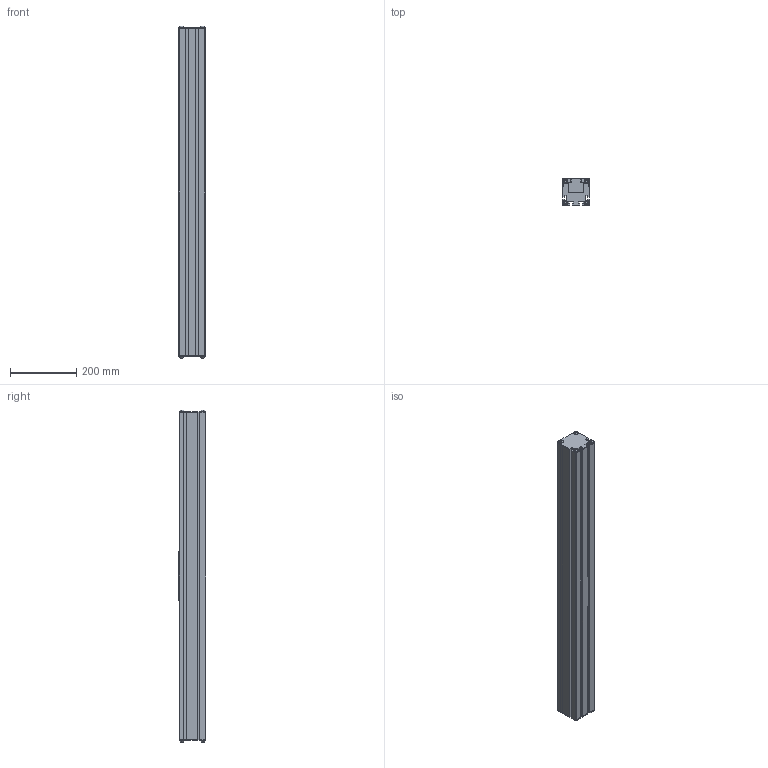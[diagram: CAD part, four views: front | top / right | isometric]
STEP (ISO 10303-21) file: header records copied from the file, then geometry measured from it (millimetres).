
FILE_DESCRIPTION (( 'STEP AP214' ), '1' );
FILE_NAME ('LSR 80 - ED.STEP', '2022-06-30T09:38:04', ( '' ), ( '' ), 'SwSTEP 2.0', 'SolidWorks 2020', '' );
FILE_SCHEMA (( 'AUTOMOTIVE_DESIGN' ));
Length unit declared in the file: millimetre
Products named in the file (4): LSR 80 - ED; carriage^LSR 80 - ED; profile^LSR 80 - ED; end plate^LSR 80 - ED
Assembly tree (4 placements, depth 2):
  LSR 80 - ED
    profile^LSR 80 - ED
    carriage^LSR 80 - ED
    end plate^LSR 80 - ED  x2
Bounding box: 80 x 83 x 999.4 mm (x, y, z)
Volume: 4162382.8 mm3; surface area: 696692.8 mm2
Topology: 6 solids, 6 shells, 367 faces, 947 edges, 626 vertices
Faces by surface type: plane 276, cylinder 71, bspline 20
Entity records: 9623 total; most frequent: CARTESIAN_POINT 2985, ORIENTED_EDGE 1334, DIRECTION 1229, EDGE_CURVE 667, LINE 537, VECTOR 537, VERTEX_POINT 442, AXIS2_PLACEMENT_3D 346
